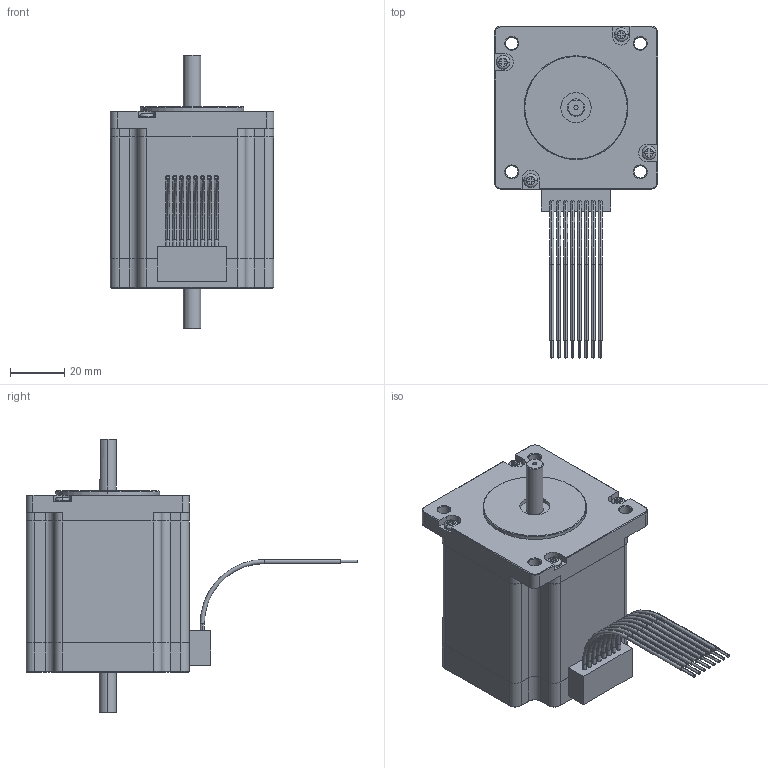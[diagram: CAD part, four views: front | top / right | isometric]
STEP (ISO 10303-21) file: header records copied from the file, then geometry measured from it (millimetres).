
FILE_DESCRIPTION (( 'STEP AP214' ), '1' );
FILE_NAME ('24Y304D-LW8.STEP', '2010-06-11T18:02:37', ( 'Tim Raines' ), ( 'Anaheim Automation' ), 'SwSTEP 2.0', 'SolidWorks 2010', '' );
FILE_SCHEMA (( 'AUTOMOTIVE_DESIGN' ));
Length unit declared in the file: inch
Products named in the file (1): 24Y304D-LW8
Bounding box: 59.94 x 121.84 x 100.58 mm (x, y, z)
Volume: 213789.2 mm3; surface area: 27068.8 mm2
Topology: 1 solids, 1 shells, 397 faces, 994 edges, 622 vertices
Faces by surface type: plane 175, cylinder 135, cone 63, torus 24
Entity records: 17080 total; most frequent: CARTESIAN_POINT 2256, DIRECTION 2099, ORIENTED_EDGE 1964, EDGE_CURVE 982, AXIS2_PLACEMENT_3D 777, VERTEX_POINT 622, LINE 545, VECTOR 545
